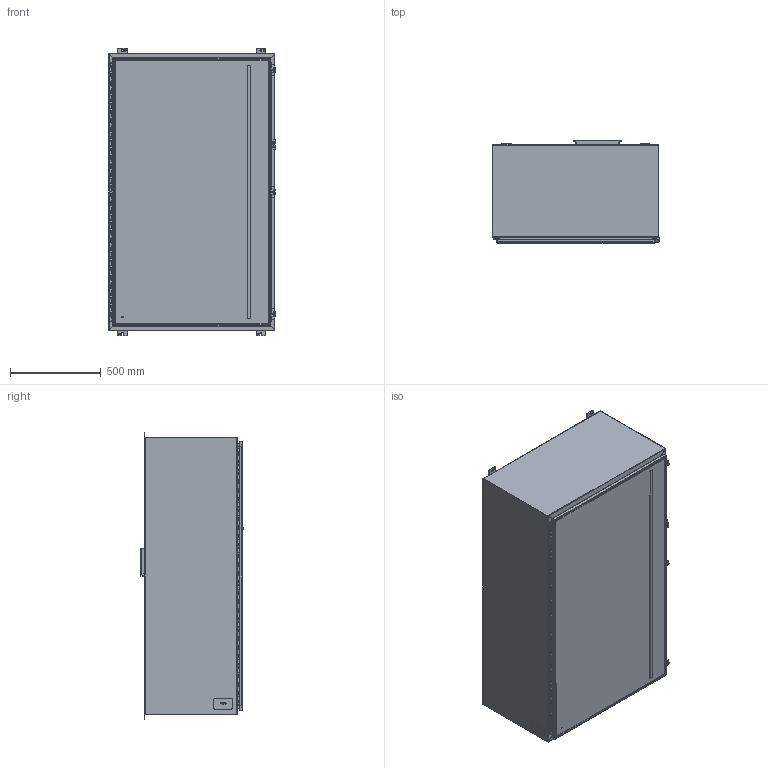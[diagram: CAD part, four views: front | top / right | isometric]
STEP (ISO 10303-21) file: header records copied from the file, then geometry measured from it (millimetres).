
FILE_DESCRIPTION(/* description */ ('Unknown'),/* implementation_level */ '2;1');
FILE_NAME(/* name */ '1418T20LP',/* time_stamp */ '2026-02-20T16:37:50-05:00',/* author */ ('Unknown'),/* organization */ ('Unknown'),/* preprocessor_version */ 'ST-DEVELOPER v18.104',/* originating_system */ 'Solid Edge',/* authorisation */ 'Unknown');
FILE_SCHEMA (('AUTOMOTIVE_DESIGN {1 0 10303 214 3 1 1}'));
Length unit declared in the file: millimetre
Products named in the file (33): 1418T20LP; STD26094; STD21878; COM42780; AKT90223; SPR20265; SCC19011; WAF25035; COM42667; COM40153-1; PNT11078; COM71782-6; COM40153-2; COM70219_oa_0; HNG10620-56C; COM53845-4; COM48501; FET07710; BUL10020; QLB30109; PKT99; KIT90256; LAB30005; NTS165305; NTS16535; KIT90521; WAF25059; NTS166105; COM48524; HNG10620-56B; HNG10620-56P; QLB20254
Assembly tree (49 placements, depth 3):
  1418T20LP
    STD26094  x8
    STD21878
    COM42780  x3
    AKT90223  x3
      SPR20265
      SCC19011
      WAF25035
      COM42667
    COM40153-1
    PNT11078
    COM71782-6
      COM40153-2
      COM71782-6
      STD21878
      PNT11078
      COM70219_oa_0
      HNG10620-56C
      COM53845-4
    COM48501
    FET07710  x4
    BUL10020
    QLB30109
    PKT99
    KIT90256
      LAB30005
      NTS165305
      NTS16535
    KIT90521
      WAF25059
      NTS166105
    COM48524  x2
    HNG10620-56B
    HNG10620-56P
    QLB20254
Bounding box: 917.58 x 561.98 x 1581.15 mm (x, y, z)
Volume: 10808840.4 mm3; surface area: 11835194.1 mm2
Topology: 47 solids, 48 shells, 1664 faces, 4303 edges, 2796 vertices
Faces by surface type: plane 1098, cylinder 431, bspline 69, torus 34, cone 30, sphere 2
Full cylindrical faces by diameter (mm): 3.175 x1, 4.763 x1, 4.976 x1, 5.41 x3, 6.198 x3, 6.35 x3, 6.731 x3, 7.137 x2, 7.805 x1, 7.938 x4, 8.382 x8, 9.525 x8, 9.906 x3, 11.113 x4, 11.303 x1, 12.7 x3, 16.51 x8, 25.4 x1, 88.9 x1
Entity records: 40290 total; most frequent: CARTESIAN_POINT 11493, ORIENTED_EDGE 5898, DIRECTION 5438, EDGE_CURVE 2949, LINE 2006, VECTOR 2006, VERTEX_POINT 1933, AXIS2_PLACEMENT_3D 1716
